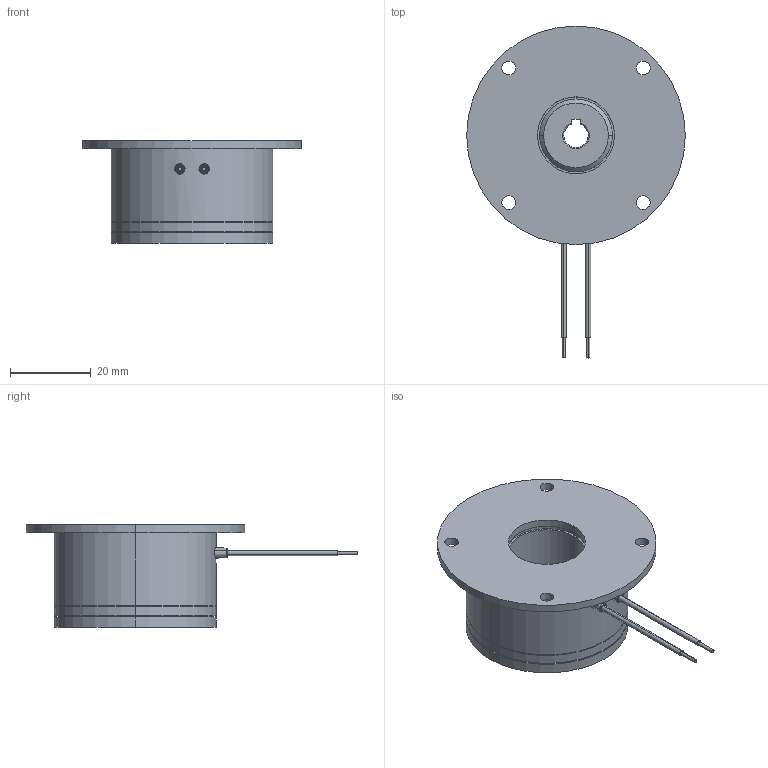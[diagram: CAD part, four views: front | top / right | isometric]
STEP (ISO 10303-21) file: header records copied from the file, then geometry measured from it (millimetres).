
FILE_DESCRIPTION (( 'STEP AP214' ), '1' );
FILE_NAME ('dr_bk_0302-120_mu.STEP', '2021-11-10T09:50:26', ( '' ), ( '' ), 'SwSTEP 2.0', 'SolidWorks 2019', '' );
FILE_SCHEMA (( 'AUTOMOTIVE_DESIGN' ));
Length unit declared in the file: millimetre
Products named in the file (10): 10068683_000; 10068746_000; 10068747_000; 10068744_000; 10068742_000; 10068741_000_Einbaul„nge 1,75 mm; 10068745_000_eingebaut; 10068749_000_03.02.331-0102; dr_bk_0302-120_mu; 10068743_000_Einbaul„nge 1,7 mm
Assembly tree (18 placements, depth 4):
  dr_bk_0302-120_mu
    10068683_000
    10068747_000
      10068749_000_03.02.331-0102
      10068744_000
        10068746_000
        10068742_000
        10068745_000_eingebaut  x3
        10068743_000_Einbaul„nge 1,7 mm  x3
      10068741_000_Einbaul„nge 1,75 mm  x3
      10068745_000_eingebaut  x3
Bounding box: 54 x 82 x 25.4 mm (x, y, z)
Volume: 28855.6 mm3; surface area: 16381.6 mm2
Topology: 18 solids, 18 shells, 310 faces, 692 edges, 422 vertices
Faces by surface type: cylinder 149, cone 76, plane 41, torus 32, sphere 12
Entity records: 7017 total; most frequent: DIRECTION 1148, CARTESIAN_POINT 1091, ORIENTED_EDGE 888, AXIS2_PLACEMENT_3D 497, EDGE_CURVE 444, CIRCLE 278, VERTEX_POINT 278, EDGE_LOOP 262
